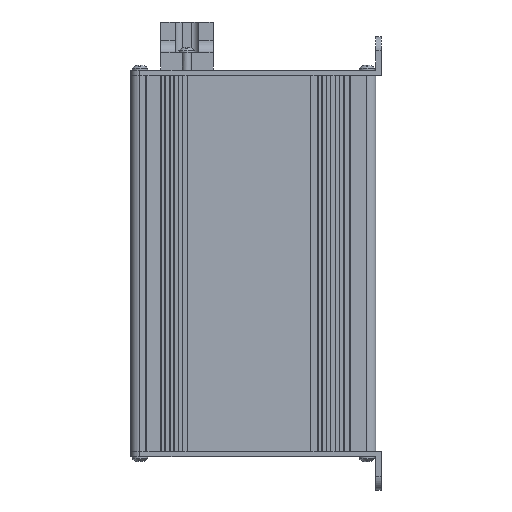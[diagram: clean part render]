
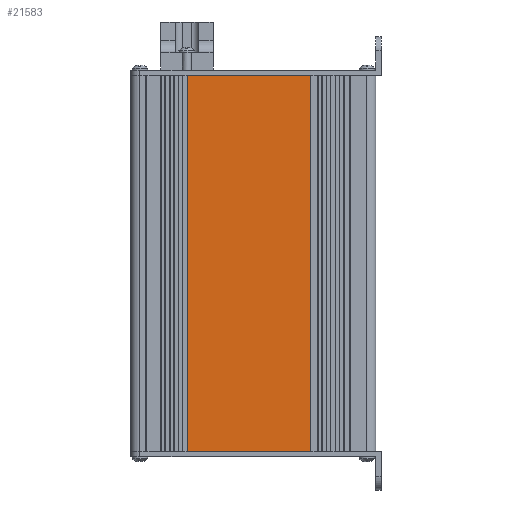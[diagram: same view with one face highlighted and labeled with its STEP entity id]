
A CAD part, left-side view. The second image highlights one B-rep face of the part: STEP entity #21583.
In plain terms, the highlighted planar face has unit normal (-1, 0, 0).
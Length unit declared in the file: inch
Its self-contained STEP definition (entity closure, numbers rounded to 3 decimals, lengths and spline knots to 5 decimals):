
#1057=LINE('',#41291,#2826);
#1058=LINE('',#41294,#2827);
#1059=LINE('',#41296,#2828);
#1060=LINE('',#41297,#2829);
#2826=VECTOR('',#27295,0.3937);
#2827=VECTOR('',#27298,0.3937);
#2828=VECTOR('',#27299,0.3937);
#2829=VECTOR('',#27300,0.3937);
#5223=FACE_OUTER_BOUND('',#6386,.T.);
#6386=EDGE_LOOP('',(#16457,#16458,#16459,#16460));
#9168=VERTEX_POINT('',#41287);
#9169=VERTEX_POINT('',#41289);
#9170=VERTEX_POINT('',#41293);
#9171=VERTEX_POINT('',#41295);
#11847=EDGE_CURVE('',#9168,#9169,#1057,.T.);
#11848=EDGE_CURVE('',#9168,#9170,#1058,.T.);
#11849=EDGE_CURVE('',#9171,#9169,#1059,.T.);
#11850=EDGE_CURVE('',#9170,#9171,#1060,.T.);
#16457=ORIENTED_EDGE('',*,*,#11848,.F.);
#16458=ORIENTED_EDGE('',*,*,#11847,.T.);
#16459=ORIENTED_EDGE('',*,*,#11849,.F.);
#16460=ORIENTED_EDGE('',*,*,#11850,.F.);
#20019=PLANE('',#23266);
#21583=ADVANCED_FACE('',(#5223),#20019,.T.);
#23266=AXIS2_PLACEMENT_3D('',#41292,#27296,#27297);
#27295=DIRECTION('',(0.,0.,1.));
#27296=DIRECTION('center_axis',(-1.,0.,0.));
#27297=DIRECTION('ref_axis',(0.,-1.,0.));
#27298=DIRECTION('',(0.,1.,0.));
#27299=DIRECTION('',(0.,-1.,0.));
#27300=DIRECTION('',(0.,0.,1.));
#41287=CARTESIAN_POINT('',(0.05735,1.61269,-8.46457));
#41289=CARTESIAN_POINT('',(0.05735,1.61269,0.));
#41291=CARTESIAN_POINT('',(0.05735,1.61269,-8.46457));
#41292=CARTESIAN_POINT('Origin',(0.05735,4.3686,-8.46457));
#41293=CARTESIAN_POINT('',(0.05735,4.3686,-8.46457));
#41294=CARTESIAN_POINT('',(0.05735,3.59907,-8.46457));
#41295=CARTESIAN_POINT('',(0.05735,4.3686,0.));
#41296=CARTESIAN_POINT('',(0.05735,3.59907,0.));
#41297=CARTESIAN_POINT('',(0.05735,4.3686,-8.46457));
